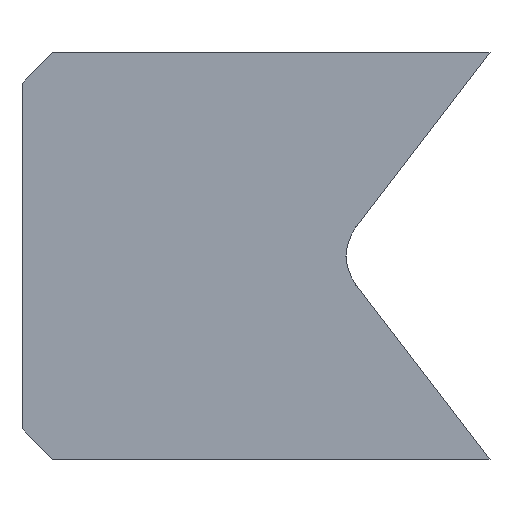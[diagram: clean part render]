
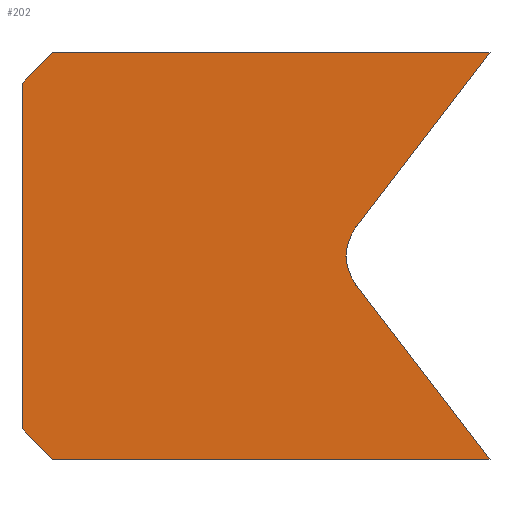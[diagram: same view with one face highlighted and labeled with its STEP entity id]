
A CAD part, front view. The second image highlights one B-rep face of the part: STEP entity #202.
In plain terms, the highlighted planar face has unit normal (0, -1, 0).
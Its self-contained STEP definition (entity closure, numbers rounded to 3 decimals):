
#7 = EDGE_CURVE ( 'NONE', #151, #25, #69, .T. ) ;
#10 = VECTOR ( 'NONE', #168, 1000. ) ;
#11 = LINE ( 'NONE', #96, #272 ) ;
#13 = CARTESIAN_POINT ( 'NONE',  ( 3.287, 0., 2.287 ) ) ;
#14 = CARTESIAN_POINT ( 'NONE',  ( 4.6, 0., 4. ) ) ;
#23 = CARTESIAN_POINT ( 'NONE',  ( 3.222, 0., 2.202 ) ) ;
#25 = VERTEX_POINT ( 'NONE', #13 ) ;
#28 = VERTEX_POINT ( 'NONE', #184 ) ;
#35 = CARTESIAN_POINT ( 'NONE',  ( 3.188, 0., 2. ) ) ;
#39 = LINE ( 'NONE', #281, #219 ) ;
#46 = VERTEX_POINT ( 'NONE', #293 ) ;
#48 = ORIENTED_EDGE ( 'NONE', *, *, #315, .T. ) ;
#60 = VECTOR ( 'NONE', #196, 1000. ) ;
#65 = CARTESIAN_POINT ( 'NONE',  ( 0., 0., 4. ) ) ;
#69 =( BOUNDED_CURVE ( )  B_SPLINE_CURVE ( 3, ( #259, #223, #23, #198 ),
 .UNSPECIFIED., .F., .F. ) 
 B_SPLINE_CURVE_WITH_KNOTS ( ( 4, 4 ),
 ( 0., 0.611 ),
 .UNSPECIFIED. ) 
 CURVE ( )  GEOMETRIC_REPRESENTATION_ITEM ( )  RATIONAL_B_SPLINE_CURVE ( ( 1., 0.969, 0.969, 1. ) ) 
 REPRESENTATION_ITEM ( '' )  );
#70 = ORIENTED_EDGE ( 'NONE', *, *, #306, .T. ) ;
#80 = EDGE_LOOP ( 'NONE', ( #70, #330, #331, #48, #211, #304, #95, #321, #274 ) ) ;
#88 = VERTEX_POINT ( 'NONE', #354 ) ;
#93 = CARTESIAN_POINT ( 'NONE',  ( 3.188, 0., 2. ) ) ;
#94 = CARTESIAN_POINT ( 'NONE',  ( 4.6, 0., 0. ) ) ;
#95 = ORIENTED_EDGE ( 'NONE', *, *, #312, .T. ) ;
#96 = CARTESIAN_POINT ( 'NONE',  ( 0., 0., 0.3 ) ) ;
#103 = CARTESIAN_POINT ( 'NONE',  ( 0., 0., 0.3 ) ) ;
#113 = CARTESIAN_POINT ( 'NONE',  ( 0.3, 0., 0. ) ) ;
#118 = CARTESIAN_POINT ( 'NONE',  ( 3.287, 0., 1.713 ) ) ;
#119 = LINE ( 'NONE', #94, #251 ) ;
#133 = CARTESIAN_POINT ( 'NONE',  ( 0.3, 0., 4. ) ) ;
#140 = CARTESIAN_POINT ( 'NONE',  ( 3.222, 0., 1.798 ) ) ;
#142 = VECTOR ( 'NONE', #193, 1000. ) ;
#144 = LINE ( 'NONE', #14, #60 ) ;
#151 = VERTEX_POINT ( 'NONE', #35 ) ;
#160 = VERTEX_POINT ( 'NONE', #113 ) ;
#162 = CARTESIAN_POINT ( 'NONE',  ( 0., 0., 3.7 ) ) ;
#168 = DIRECTION ( 'NONE',  ( 0., 0., -1. ) ) ;
#173 = DIRECTION ( 'NONE',  ( -0.608, 0., 0.794 ) ) ;
#177 =( BOUNDED_CURVE ( )  B_SPLINE_CURVE ( 3, ( #118, #140, #250, #93 ),
 .UNSPECIFIED., .F., .T. ) 
 B_SPLINE_CURVE_WITH_KNOTS ( ( 4, 4 ),
 ( 5.672, 6.283 ),
 .UNSPECIFIED. ) 
 CURVE ( )  GEOMETRIC_REPRESENTATION_ITEM ( )  RATIONAL_B_SPLINE_CURVE ( ( 1., 0.969, 0.969, 1. ) ) 
 REPRESENTATION_ITEM ( '' )  );
#184 = CARTESIAN_POINT ( 'NONE',  ( 4.6, 0., 4. ) ) ;
#185 = VERTEX_POINT ( 'NONE', #162 ) ;
#190 = PLANE ( 'NONE',  #209 ) ;
#193 = DIRECTION ( 'NONE',  ( -0.707, 0., -0.707 ) ) ;
#196 = DIRECTION ( 'NONE',  ( 0.608, 0., 0.794 ) ) ;
#198 = CARTESIAN_POINT ( 'NONE',  ( 3.287, 0., 2.287 ) ) ;
#199 = DIRECTION ( 'NONE',  ( 1., 0., 0. ) ) ;
#202 = ADVANCED_FACE ( 'NONE', ( #337 ), #190, .F. ) ;
#209 = AXIS2_PLACEMENT_3D ( 'NONE', #298, #338, #212 ) ;
#211 = ORIENTED_EDGE ( 'NONE', *, *, #294, .T. ) ;
#212 = DIRECTION ( 'NONE',  ( 0., 0., 1. ) ) ;
#219 = VECTOR ( 'NONE', #346, 1000. ) ;
#220 = EDGE_CURVE ( 'NONE', #88, #185, #269, .T. ) ;
#222 = CARTESIAN_POINT ( 'NONE',  ( 0., 0., 0. ) ) ;
#223 = CARTESIAN_POINT ( 'NONE',  ( 3.188, 0., 2.103 ) ) ;
#248 = EDGE_CURVE ( 'NONE', #160, #355, #279, .T. ) ;
#250 = CARTESIAN_POINT ( 'NONE',  ( 3.188, 0., 1.897 ) ) ;
#251 = VECTOR ( 'NONE', #173, 1000. ) ;
#254 = DIRECTION ( 'NONE',  ( 0.707, 0., -0.707 ) ) ;
#259 = CARTESIAN_POINT ( 'NONE',  ( 3.188, 0., 2. ) ) ;
#269 = LINE ( 'NONE', #133, #142 ) ;
#272 = VECTOR ( 'NONE', #254, 1000. ) ;
#274 = ORIENTED_EDGE ( 'NONE', *, *, #220, .T. ) ;
#279 = LINE ( 'NONE', #222, #303 ) ;
#281 = CARTESIAN_POINT ( 'NONE',  ( 0., 0., 4. ) ) ;
#284 = CARTESIAN_POINT ( 'NONE',  ( 4.6, 0., 0. ) ) ;
#287 = EDGE_CURVE ( 'NONE', #88, #28, #39, .T. ) ;
#291 = EDGE_CURVE ( 'NONE', #333, #160, #11, .T. ) ;
#293 = CARTESIAN_POINT ( 'NONE',  ( 3.287, 0., 1.713 ) ) ;
#294 = EDGE_CURVE ( 'NONE', #46, #151, #177, .T. ) ;
#298 = CARTESIAN_POINT ( 'NONE',  ( 0., 0., 4. ) ) ;
#303 = VECTOR ( 'NONE', #199, 1000. ) ;
#304 = ORIENTED_EDGE ( 'NONE', *, *, #7, .T. ) ;
#306 = EDGE_CURVE ( 'NONE', #185, #333, #309, .T. ) ;
#309 = LINE ( 'NONE', #65, #10 ) ;
#312 = EDGE_CURVE ( 'NONE', #25, #28, #144, .T. ) ;
#315 = EDGE_CURVE ( 'NONE', #355, #46, #119, .T. ) ;
#321 = ORIENTED_EDGE ( 'NONE', *, *, #287, .F. ) ;
#330 = ORIENTED_EDGE ( 'NONE', *, *, #291, .T. ) ;
#331 = ORIENTED_EDGE ( 'NONE', *, *, #248, .T. ) ;
#333 = VERTEX_POINT ( 'NONE', #103 ) ;
#337 = FACE_OUTER_BOUND ( 'NONE', #80, .T. ) ;
#338 = DIRECTION ( 'NONE',  ( 0., 1., 0. ) ) ;
#346 = DIRECTION ( 'NONE',  ( 1., 0., 0. ) ) ;
#354 = CARTESIAN_POINT ( 'NONE',  ( 0.3, 0., 4. ) ) ;
#355 = VERTEX_POINT ( 'NONE', #284 ) ;
